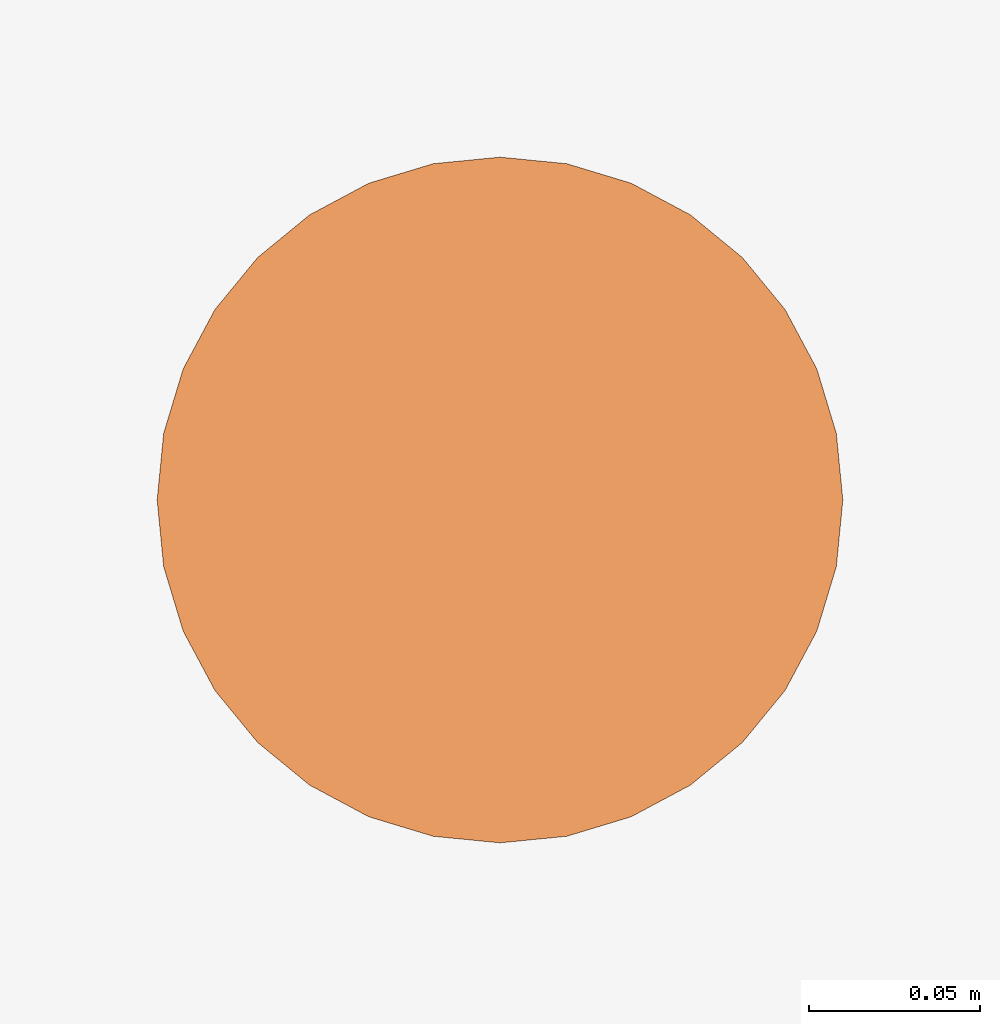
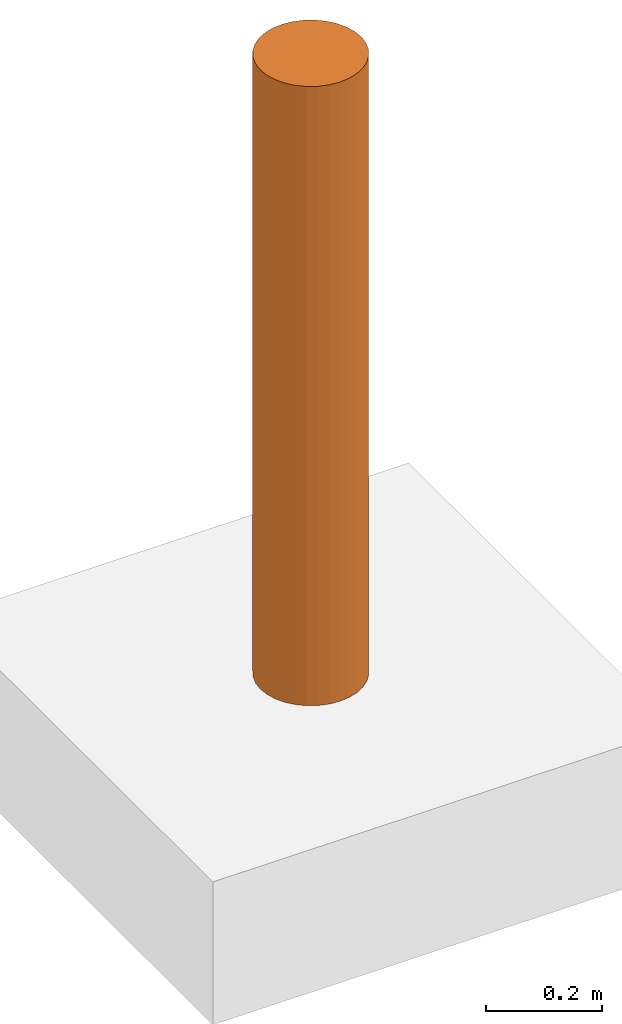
# One storey, part 2 of 2: 1 proxy.
"""IFC4 building model written with IfcOpenShell, lengths in metres."""

from ifc_helpers import new_model, entity, si_unit, converted_unit, direction, frame_2d, origin, place, context, subcontext, project, spatial, circle, extrude, source, transform, mapped, material, type_object, type_shapes, element, save


model = new_model("IFC4")

# Units and contexts
model_context = context("Model", 3, precision=1e-05, world=origin(), true_north=direction((6.123031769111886e-17, 1.0)))
body_context = subcontext(model_context, "Body", "Model", "MODEL_VIEW")
ifc_project = project(units=[si_unit("LENGTHUNIT", "METRE"), converted_unit("PLANEANGLEUNIT", "DEGREE", entity("IfcPlaneAngleMeasure", 0.017453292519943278), si_unit("PLANEANGLEUNIT", "RADIAN"), dimensions=[0, 0, 0, 0, 0, 0, 0]), si_unit("AREAUNIT", "SQUARE_METRE")], contexts=[model_context])

# Site, building, storey
site_placement = place(None, origin())
site = spatial("IfcSite", under=ifc_project, at=site_placement, Name="Default", CompositionType="ELEMENT")
building_placement = place(site_placement, origin())
building = spatial("IfcBuilding", under=site, at=building_placement, CompositionType="ELEMENT")
storey_placement = place(building_placement, origin())
storey = spatial("IfcBuildingStorey", under=building, at=storey_placement, Name="DB_Bezugshoehe_max_Bahnsteigkante", CompositionType="ELEMENT", Elevation=0.0)

# Proxy
ifc_material = material(Name="DB_Aluminium_RAL7035", Category="DB_Aluminium")
building_element_proxy_type = type_object("IfcBuildingElementProxyType", Name="DB_Pfosten_rund:DB_Pfosten_rund", PredefinedType="NOTDEFINED", material=ifc_material)
shared_shape = source(origin(), body_context, "Body", "SweptSolid", [
    extrude(circle(Radius=0.1, at=frame_2d((-1.979542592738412e-18, -1.6155445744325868e-16), x_axis=(1.0, 0.0))), origin(), (0.0, 0.0, 1.0), 1.3000000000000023),
])
type_shapes(building_element_proxy_type, [shared_shape])
proxy_placement = place(storey_placement, origin())
element("IfcBuildingElementProxy", 1, at=proxy_placement, inside=storey, type_object=building_element_proxy_type, material=ifc_material, Name="DB_Pfosten_rund:DB_Pfosten_rund", ObjectType="DB_Pfosten_rund:DB_Pfosten_rund", PredefinedType="NOTDEFINED", context=body_context, shape_type="MappedRepresentation", body=[
    mapped(shared_shape, transform((0.0, 0.0, 0.0), scale=1.0)),
])

save(model, "model.ifc")
